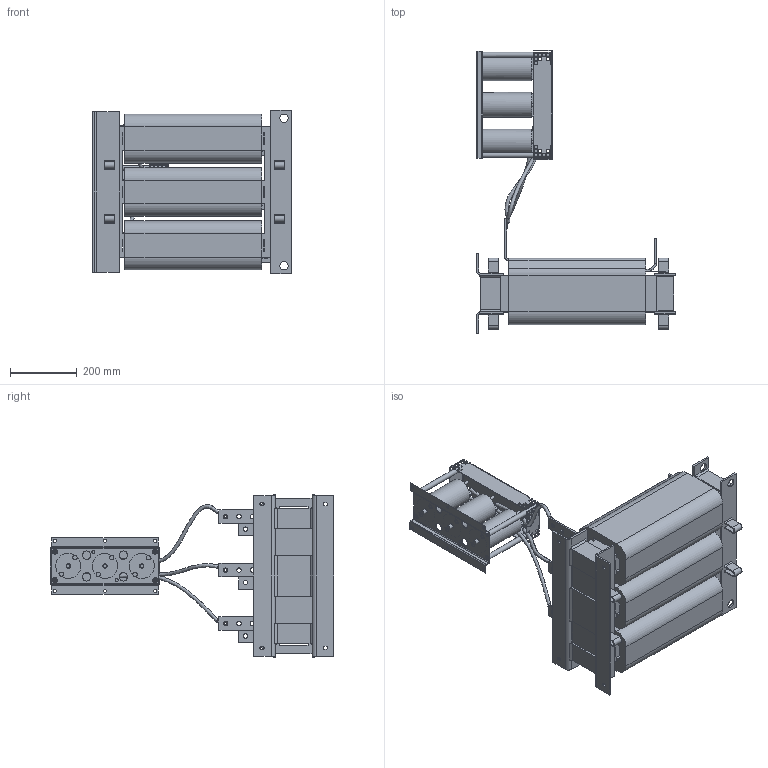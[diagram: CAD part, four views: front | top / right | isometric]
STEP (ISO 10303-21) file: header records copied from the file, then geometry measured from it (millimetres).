
FILE_DESCRIPTION((''),'2;1');
FILE_NAME('L:\INVENTOR_Projektedaten\HousingDesign\FN5040\FN5040-410-99\FN5040-410-99.stp','2013-09-18T17:09:12',('Samuel.Meier'),(''),'Autodesk Inventor 2013','Autodesk Inventor 2013','');
FILE_SCHEMA(('AUTOMOTIVE_DESIGN { 1 0 10303 214 1 1 1 1 }'));
Length unit declared in the file: millimetre
Products named in the file (4): Baugruppe1; CABLES; CAPS; PART01
Assembly tree (3 placements, depth 2):
  Baugruppe1
    CABLES
    CAPS
    PART01
Bounding box: 595 x 848.72 x 490 mm (x, y, z)
Volume: 39842222.9 mm3; surface area: 3135062.5 mm2
Topology: 5 solids, 11 shells, 1417 faces, 4471 edges, 2861 vertices
Faces by surface type: plane 1117, cylinder 253, bspline 18, cone 17, torus 12
Full cylindrical faces by diameter (mm): 6.647 x8, 7.1 x3, 8 x6, 8.3 x3, 9 x12, 9.5 x3, 12 x3, 13 x24, 15 x4, 25 x8, 75 x3
Entity records: 61376 total; most frequent: CARTESIAN_POINT 19822, ORIENTED_EDGE 8640, DIRECTION 7730, EDGE_CURVE 4326, VECTOR 3650, LINE 3650, VERTEX_POINT 2810, AXIS2_PLACEMENT_3D 2040
